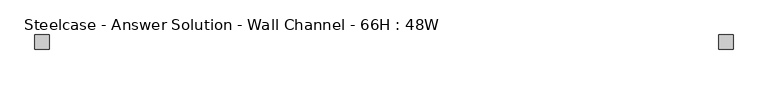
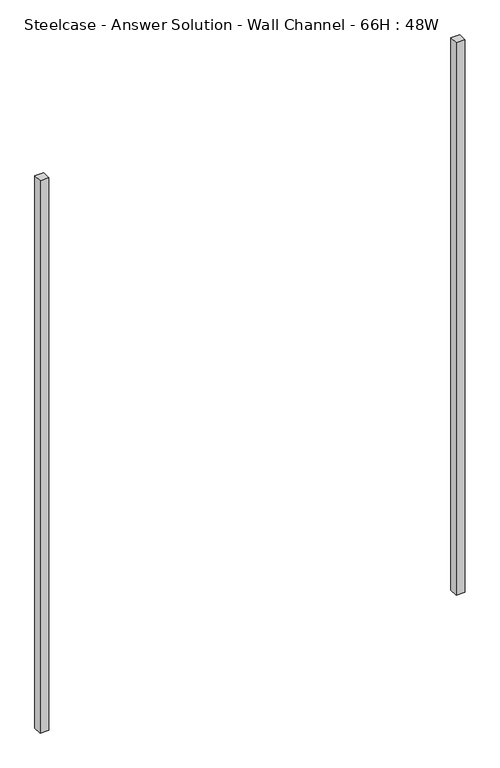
"""IFC4 building model written with IfcOpenShell, lengths in millimetres: furniture geometry, Steelcase - Answer Solution - Wall Channel - 66H : 48W."""

from ifc_helpers import new_model, si_unit, origin, origin_with_axes, place, context, project, spatial, polyline, outline, extrude, source, transform, mapped, element, save


def steelcase_answer_solution_wall_channel_66h_48w_5ba7d7bc(model_context):
    return source(origin(), model_context, "Body", "SweptSolid", [
        extrude(outline(polyline([(1193.8, 0.0), (1219.2, 0.0), (1219.2, -25.4), (1193.8, -25.4), (1193.8, 0.0)])), origin_with_axes(), (0.0, 0.0, 1.0), 1673.225),
        extrude(outline(polyline([(25.4, 0.0), (25.4, -25.4), (0.0, -25.4), (0.0, 0.0), (25.4, 0.0)])), origin_with_axes(), (0.0, 0.0, 1.0), 1673.225),
    ])


if __name__ == "__main__":
    model = new_model("IFC4")
    model_context = context("Model", 3, world=origin())
    ifc_project = project(units=[si_unit("LENGTHUNIT", "METRE", prefix="MILLI")], contexts=[model_context])
    site = spatial("IfcSite", under=ifc_project)
    building = spatial("IfcBuilding", under=site)
    placement = place(None, origin())
    steelcase_answer_solution_wall_channel_66h_48w_shape = steelcase_answer_solution_wall_channel_66h_48w_5ba7d7bc(model_context)
    element("IfcFurniture", 1, ObjectType="Steelcase - Answer Solution - Wall Channel - 66H : 48W", at=placement, inside=building, context=model_context, shape_type="MappedRepresentation", body=[
        mapped(steelcase_answer_solution_wall_channel_66h_48w_shape, transform((0.0, 0.0, 0.0), x_axis=(1.0, 0.0, 0.0), y_axis=(0.0, 1.0, 0.0), z_axis=(0.0, 0.0, 1.0))),
    ])
    save(model, "model.ifc")
